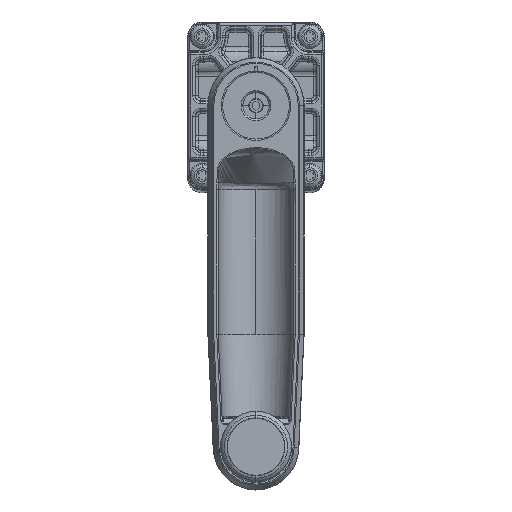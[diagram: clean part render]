
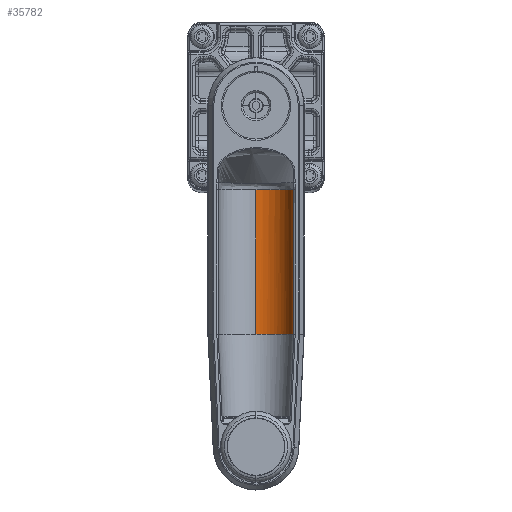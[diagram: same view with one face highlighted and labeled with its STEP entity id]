
A CAD part, top view. The second image highlights one B-rep face of the part: STEP entity #35782.
In plain terms, the highlighted cylindrical face has radius 14.25 mm (diameter 28.5 mm), a partial arc.
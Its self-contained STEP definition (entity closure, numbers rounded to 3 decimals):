
#1690 = CARTESIAN_POINT ( 'NONE',  ( 8.092, -6.882, -30.526 ) ) ;
#1796 = CARTESIAN_POINT ( 'NONE',  ( -1.351, -6.882, -40.079 ) ) ;
#2704 = CARTESIAN_POINT ( 'NONE',  ( -0.928, -6.882, -39.947 ) ) ;
#4789 = EDGE_CURVE ( 'NONE', #61299, #92550, #76041, .T. ) ;
#6187 = CARTESIAN_POINT ( 'NONE',  ( 8.691, -6.882, -26.467 ) ) ;
#7267 = DIRECTION ( 'NONE',  ( 0., -1., 0. ) ) ;
#7593 = CARTESIAN_POINT ( 'NONE',  ( -5.569, -6.882, -40.717 ) ) ;
#7860 = VERTEX_POINT ( 'NONE', #66074 ) ;
#9184 = CARTESIAN_POINT ( 'NONE',  ( 2.369, -6.882, -38.385 ) ) ;
#9618 = CARTESIAN_POINT ( 'NONE',  ( -4.203, -6.882, -40.652 ) ) ;
#11227 = ORIENTED_EDGE ( 'NONE', *, *, #108965, .F. ) ;
#11885 = VECTOR ( 'NONE', #28575, 1000. ) ;
#12356 = EDGE_CURVE ( 'NONE', #56710, #84222, #60559, .T. ) ;
#12633 = B_SPLINE_CURVE_WITH_KNOTS ( 'NONE', 3,
 ( #25579, #34760, #62476, #7593 ),
 .UNSPECIFIED., .F., .F.,
 ( 4, 4 ),
 ( 0.47, 0.5 ),
 .UNSPECIFIED. ) ;
#13951 = VERTEX_POINT ( 'NONE', #29132 ) ;
#13998 = B_SPLINE_CURVE_WITH_KNOTS ( 'NONE', 3,
 ( #6187, #69870, #79405, #24558, #88580, #33760 ),
 .UNSPECIFIED., .F., .F.,
 ( 4, 2, 4 ),
 ( 0., 0., 0.079 ),
 .UNSPECIFIED. ) ;
#18628 = EDGE_CURVE ( 'NONE', #7860, #106939, #54556, .T. ) ;
#18955 = CARTESIAN_POINT ( 'NONE',  ( 7.027, -6.882, -33.132 ) ) ;
#19398 = CARTESIAN_POINT ( 'NONE',  ( 8.681, 48.118, -26.467 ) ) ;
#19678 = ORIENTED_EDGE ( 'NONE', *, *, #18628, .T. ) ;
#23560 = CARTESIAN_POINT ( 'NONE',  ( -5.569, 48.118, -26.467 ) ) ;
#24558 = CARTESIAN_POINT ( 'NONE',  ( 8.685, -6.882, -27.645 ) ) ;
#25579 = CARTESIAN_POINT ( 'NONE',  ( -4.203, -6.882, -40.652 ) ) ;
#26979 = ORIENTED_EDGE ( 'NONE', *, *, #81391, .F. ) ;
#28575 = DIRECTION ( 'NONE',  ( 0., -1., 0. ) ) ;
#29132 = CARTESIAN_POINT ( 'NONE',  ( 1.114, -6.882, -39.053 ) ) ;
#30261 = DIRECTION ( 'NONE',  ( 0., -1., 0. ) ) ;
#32751 = DIRECTION ( 'NONE',  ( 0., 0., 1. ) ) ;
#33760 = CARTESIAN_POINT ( 'NONE',  ( 8.245, -6.882, -29.972 ) ) ;
#34760 = CARTESIAN_POINT ( 'NONE',  ( -4.657, -6.882, -40.695 ) ) ;
#35782 = ADVANCED_FACE ( 'NONE', ( #90776 ), #112226, .F. ) ;
#38384 = ORIENTED_EDGE ( 'NONE', *, *, #90608, .F. ) ;
#38606 = ORIENTED_EDGE ( 'NONE', *, *, #12356, .F. ) ;
#39507 = CARTESIAN_POINT ( 'NONE',  ( 7.239, -6.882, -32.731 ) ) ;
#45531 = ORIENTED_EDGE ( 'NONE', *, *, #63923, .F. ) ;
#45992 = CARTESIAN_POINT ( 'NONE',  ( -2.279, -6.882, -40.365 ) ) ;
#46943 = VERTEX_POINT ( 'NONE', #49952 ) ;
#47357 = CARTESIAN_POINT ( 'NONE',  ( 8.245, -6.882, -29.972 ) ) ;
#48321 = EDGE_CURVE ( 'NONE', #84222, #94138, #13998, .T. ) ;
#49952 = CARTESIAN_POINT ( 'NONE',  ( -4.203, -6.882, -40.652 ) ) ;
#51185 = VERTEX_POINT ( 'NONE', #1796 ) ;
#53142 = AXIS2_PLACEMENT_3D ( 'NONE', #116854, #7267, #62141 ) ;
#53776 = AXIS2_PLACEMENT_3D ( 'NONE', #23560, #87564, #32751 ) ;
#54556 = LINE ( 'NONE', #57922, #76036 ) ;
#56561 = CARTESIAN_POINT ( 'NONE',  ( 8.145, -6.882, -30.342 ) ) ;
#56710 = VERTEX_POINT ( 'NONE', #96061 ) ;
#57538 = CARTESIAN_POINT ( 'NONE',  ( -0.088, -6.882, -39.644 ) ) ;
#57922 = CARTESIAN_POINT ( 'NONE',  ( -5.569, 48.118, -40.717 ) ) ;
#58507 = ORIENTED_EDGE ( 'NONE', *, *, #4789, .F. ) ;
#59458 = CARTESIAN_POINT ( 'NONE',  ( -5.569, -6.882, -40.717 ) ) ;
#60559 = LINE ( 'NONE', #19398, #11885 ) ;
#61299 = VERTEX_POINT ( 'NONE', #105389 ) ;
#62141 = DIRECTION ( 'NONE',  ( 0., 0., -1. ) ) ;
#62476 = CARTESIAN_POINT ( 'NONE',  ( -5.113, -6.882, -40.717 ) ) ;
#63923 = EDGE_CURVE ( 'NONE', #46943, #106939, #12633, .T. ) ;
#64062 = CARTESIAN_POINT ( 'NONE',  ( 4.672, -6.882, -36.681 ) ) ;
#64404 = ORIENTED_EDGE ( 'NONE', *, *, #48321, .F. ) ;
#64465 = CARTESIAN_POINT ( 'NONE',  ( -3.237, -6.882, -40.557 ) ) ;
#66074 = CARTESIAN_POINT ( 'NONE',  ( -5.569, 48.118, -40.717 ) ) ;
#66819 = CARTESIAN_POINT ( 'NONE',  ( -1.351, -6.882, -40.079 ) ) ;
#69462 = CARTESIAN_POINT ( 'NONE',  ( 8.691, -6.882, -26.467 ) ) ;
#69783 = ORIENTED_EDGE ( 'NONE', *, *, #101116, .T. ) ;
#69870 = CARTESIAN_POINT ( 'NONE',  ( 8.691, -6.882, -26.467 ) ) ;
#73198 = CARTESIAN_POINT ( 'NONE',  ( 1.114, -6.882, -39.053 ) ) ;
#75945 = CARTESIAN_POINT ( 'NONE',  ( 7.953, -6.882, -30.992 ) ) ;
#76036 = VECTOR ( 'NONE', #30261, 1000. ) ;
#76041 = B_SPLINE_CURVE_WITH_KNOTS ( 'NONE', 3,
 ( #94249, #75945, #85134, #39507, #103441 ),
 .UNSPECIFIED., .F., .F.,
 ( 4, 1, 4 ),
 ( 0.092, 0.125, 0.155 ),
 .UNSPECIFIED. ) ;
#79405 = CARTESIAN_POINT ( 'NONE',  ( 8.691, -6.882, -26.467 ) ) ;
#80669 = EDGE_CURVE ( 'NONE', #92550, #13951, #104383, .T. ) ;
#81391 = EDGE_CURVE ( 'NONE', #94138, #61299, #91069, .T. ) ;
#84222 = VERTEX_POINT ( 'NONE', #69462 ) ;
#84733 = CARTESIAN_POINT ( 'NONE',  ( 0.718, -6.882, -39.263 ) ) ;
#85134 = CARTESIAN_POINT ( 'NONE',  ( 7.639, -6.882, -31.879 ) ) ;
#87564 = DIRECTION ( 'NONE',  ( 0., 1., 0. ) ) ;
#88580 = CARTESIAN_POINT ( 'NONE',  ( 8.534, -6.882, -28.826 ) ) ;
#90608 = EDGE_CURVE ( 'NONE', #13951, #51185, #103877, .T. ) ;
#90776 = FACE_OUTER_BOUND ( 'NONE', #108961, .T. ) ;
#91069 = B_SPLINE_CURVE_WITH_KNOTS ( 'NONE', 3,
 ( #47357, #102053, #56561, #1690 ),
 .UNSPECIFIED., .F., .F.,
 ( 4, 4 ),
 ( 0.079, 0.092 ),
 .UNSPECIFIED. ) ;
#92550 = VERTEX_POINT ( 'NONE', #18955 ) ;
#94138 = VERTEX_POINT ( 'NONE', #99356 ) ;
#94249 = CARTESIAN_POINT ( 'NONE',  ( 8.092, -6.882, -30.526 ) ) ;
#96061 = CARTESIAN_POINT ( 'NONE',  ( 8.681, 48.118, -26.467 ) ) ;
#98441 = B_SPLINE_CURVE_WITH_KNOTS ( 'NONE', 3,
 ( #109924, #45992, #64465, #9618 ),
 .UNSPECIFIED., .F., .F.,
 ( 4, 4 ),
 ( 0.405, 0.47 ),
 .UNSPECIFIED. ) ;
#99356 = CARTESIAN_POINT ( 'NONE',  ( 8.245, -6.882, -29.972 ) ) ;
#99926 = CARTESIAN_POINT ( 'NONE',  ( 6.367, -6.882, -34.377 ) ) ;
#101116 = EDGE_CURVE ( 'NONE', #56710, #7860, #116974, .T. ) ;
#102053 = CARTESIAN_POINT ( 'NONE',  ( 8.196, -6.882, -30.157 ) ) ;
#103048 = CARTESIAN_POINT ( 'NONE',  ( 1.114, -6.882, -39.053 ) ) ;
#103441 = CARTESIAN_POINT ( 'NONE',  ( 7.027, -6.882, -33.132 ) ) ;
#103877 = B_SPLINE_CURVE_WITH_KNOTS ( 'NONE', 3,
 ( #103048, #84733, #57538, #2704, #66819 ),
 .UNSPECIFIED., .F., .F.,
 ( 4, 1, 4 ),
 ( 0.345, 0.375, 0.405 ),
 .UNSPECIFIED. ) ;
#104189 = ORIENTED_EDGE ( 'NONE', *, *, #80669, .F. ) ;
#104383 = B_SPLINE_CURVE_WITH_KNOTS ( 'NONE', 3,
 ( #109503, #99926, #64062, #9184, #73198 ),
 .UNSPECIFIED., .F., .F.,
 ( 4, 1, 4 ),
 ( 0.155, 0.25, 0.345 ),
 .UNSPECIFIED. ) ;
#105389 = CARTESIAN_POINT ( 'NONE',  ( 8.092, -6.882, -30.526 ) ) ;
#106939 = VERTEX_POINT ( 'NONE', #59458 ) ;
#108961 = EDGE_LOOP ( 'NONE', ( #69783, #19678, #45531, #11227, #38384, #104189, #58507, #26979, #64404, #38606 ) ) ;
#108965 = EDGE_CURVE ( 'NONE', #51185, #46943, #98441, .T. ) ;
#109503 = CARTESIAN_POINT ( 'NONE',  ( 7.027, -6.882, -33.132 ) ) ;
#109924 = CARTESIAN_POINT ( 'NONE',  ( -1.351, -6.882, -40.079 ) ) ;
#112226 = CYLINDRICAL_SURFACE ( 'NONE', #53142, 14.25 ) ;
#116854 = CARTESIAN_POINT ( 'NONE',  ( -5.569, 48.118, -26.467 ) ) ;
#116974 = CIRCLE ( 'NONE', #53776, 14.25 ) ;
